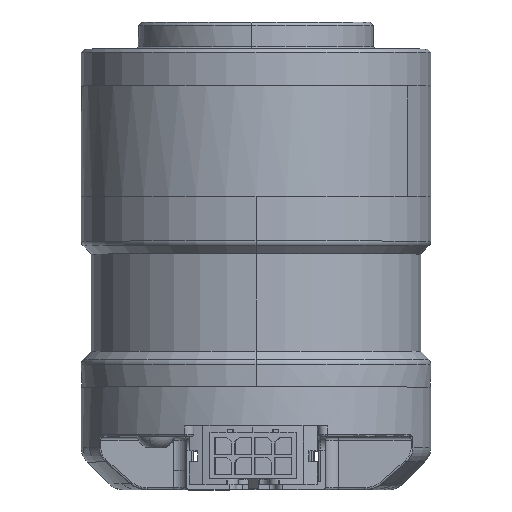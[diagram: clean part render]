
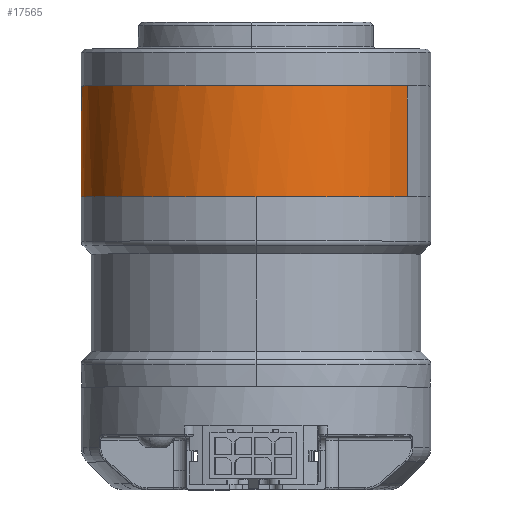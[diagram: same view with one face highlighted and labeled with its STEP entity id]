
A CAD part, top view. The second image highlights one B-rep face of the part: STEP entity #17565.
In plain terms, the highlighted cylindrical face has radius 26 mm (diameter 52 mm), a partial arc.
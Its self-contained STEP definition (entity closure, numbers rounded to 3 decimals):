
#804 = EDGE_CURVE ( 'NONE', #82842, #49451, #48290, .T. ) ;
#1028 = CARTESIAN_POINT ( 'NONE',  ( 22.517, 13.5, 13. ) ) ;
#1937 = CARTESIAN_POINT ( 'NONE',  ( -1.707, 13.5, 26. ) ) ;
#2314 = DIRECTION ( 'NONE',  ( 0., -1., 0. ) ) ;
#3898 = DIRECTION ( 'NONE',  ( 0., 1., 0. ) ) ;
#7416 = VERTEX_POINT ( 'NONE', #87258 ) ;
#7504 = VECTOR ( 'NONE', #3898, 1000. ) ;
#8072 = CARTESIAN_POINT ( 'NONE',  ( -21.663, 13.5, 14.478 ) ) ;
#8374 = AXIS2_PLACEMENT_3D ( 'NONE', #50589, #2314, #64329 ) ;
#8958 = CARTESIAN_POINT ( 'NONE',  ( -15.864, 13.5, 20.67 ) ) ;
#9255 = CARTESIAN_POINT ( 'NONE',  ( 3.399, 13.5, 25.833 ) ) ;
#11779 = EDGE_LOOP ( 'NONE', ( #84990, #81309, #20170, #42794 ) ) ;
#13263 = EDGE_CURVE ( 'NONE', #60349, #7416, #63656, .T. ) ;
#15691 = CARTESIAN_POINT ( 'NONE',  ( -6.746, 13.5, 25.167 ) ) ;
#15992 = CARTESIAN_POINT ( 'NONE',  ( -18.422, 13.5, 18.426 ) ) ;
#16300 = CARTESIAN_POINT ( 'NONE',  ( -5.081, 13.5, 25.555 ) ) ;
#17565 = ADVANCED_FACE ( 'NONE', ( #69839 ), #63279, .T. ) ;
#20170 = ORIENTED_EDGE ( 'NONE', *, *, #13263, .T. ) ;
#21181 = VECTOR ( 'NONE', #80992, 1000. ) ;
#22424 = CARTESIAN_POINT ( 'NONE',  ( -26., 13.5, -1.707 ) ) ;
#22727 = CARTESIAN_POINT ( 'NONE',  ( -22.566, 13.5, 13.026 ) ) ;
#28877 = CARTESIAN_POINT ( 'NONE',  ( -25.555, 13.5, 5.086 ) ) ;
#29189 = CARTESIAN_POINT ( 'NONE',  ( -25.167, 13.5, -6.746 ) ) ;
#29538 = DIRECTION ( 'NONE',  ( 0., 1., 0. ) ) ;
#29818 = CARTESIAN_POINT ( 'NONE',  ( -9.969, 13.5, 24.073 ) ) ;
#30100 = CARTESIAN_POINT ( 'NONE',  ( 9.973, 13.5, 24.071 ) ) ;
#31350 = CARTESIAN_POINT ( 'NONE',  ( 22.517, 6.5, 13. ) ) ;
#35900 = CARTESIAN_POINT ( 'NONE',  ( 21.666, 13.5, 14.474 ) ) ;
#42794 = ORIENTED_EDGE ( 'NONE', *, *, #83611, .F. ) ;
#43215 = CARTESIAN_POINT ( 'NONE',  ( -22.517, 13.5, -13. ) ) ;
#43835 = CARTESIAN_POINT ( 'NONE',  ( 14.478, 13.5, 21.663 ) ) ;
#46368 = LINE ( 'NONE', #31350, #21181 ) ;
#48290 = CIRCLE ( 'NONE', #8374, 26. ) ;
#49451 = VERTEX_POINT ( 'NONE', #66178 ) ;
#50526 = CARTESIAN_POINT ( 'NONE',  ( 13.026, 13.5, 22.566 ) ) ;
#50542 = EDGE_CURVE ( 'NONE', #82842, #60349, #46368, .T. ) ;
#50589 = CARTESIAN_POINT ( 'NONE',  ( 0., -3., 0. ) ) ;
#51129 = CARTESIAN_POINT ( 'NONE',  ( 17.178, 13.5, 19.591 ) ) ;
#56960 = CARTESIAN_POINT ( 'NONE',  ( -24.071, 13.5, 9.973 ) ) ;
#57531 = CARTESIAN_POINT ( 'NONE',  ( 5.086, 13.5, 25.555 ) ) ;
#58139 = CARTESIAN_POINT ( 'NONE',  ( 0.002, 13.5, 26.056 ) ) ;
#60349 = VERTEX_POINT ( 'NONE', #70660 ) ;
#63233 = LINE ( 'NONE', #67769, #7504 ) ;
#63279 = CYLINDRICAL_SURFACE ( 'NONE', #67143, 26. ) ;
#63656 = B_SPLINE_CURVE_WITH_KNOTS ( 'NONE', 3,
 ( #1028, #35900, #65159, #85538, #51129, #43835, #50526, #30100, #84635, #57531, #9255, #58139, #1937, #16300, #15691, #29818, #63959, #84929, #8958, #15992, #64563, #8072, #22727, #56960, #70657, #28877, #64853, #71542, #22424, #70963, #29189, #85245, #77988, #43215 ),
 .UNSPECIFIED., .F., .F.,
 ( 4, 2, 2, 2, 2, 2, 2, 2, 2, 2, 2, 2, 2, 2, 2, 2, 4 ),
 ( 0., 0.062, 0.125, 0.187, 0.25, 0.312, 0.375, 0.437, 0.5, 0.562, 0.625, 0.687, 0.75, 0.812, 0.875, 0.937, 1. ),
 .UNSPECIFIED. ) ;
#63959 = CARTESIAN_POINT ( 'NONE',  ( -11.526, 13.5, 23.368 ) ) ;
#64329 = DIRECTION ( 'NONE',  ( 0.5, 0., -0.866 ) ) ;
#64563 = CARTESIAN_POINT ( 'NONE',  ( -19.591, 13.5, 17.178 ) ) ;
#64853 = CARTESIAN_POINT ( 'NONE',  ( -25.833, 13.5, 3.399 ) ) ;
#65159 = CARTESIAN_POINT ( 'NONE',  ( 20.67, 13.5, 15.864 ) ) ;
#65493 = DIRECTION ( 'NONE',  ( -0.866, 0., -0.5 ) ) ;
#66178 = CARTESIAN_POINT ( 'NONE',  ( -22.517, -3., -13. ) ) ;
#67143 = AXIS2_PLACEMENT_3D ( 'NONE', #71294, #29538, #65493 ) ;
#67769 = CARTESIAN_POINT ( 'NONE',  ( -22.517, 6.5, -13. ) ) ;
#69839 = FACE_OUTER_BOUND ( 'NONE', #11779, .T. ) ;
#70657 = CARTESIAN_POINT ( 'NONE',  ( -24.674, 13.5, 8.373 ) ) ;
#70660 = CARTESIAN_POINT ( 'NONE',  ( 22.517, 13.5, 13. ) ) ;
#70963 = CARTESIAN_POINT ( 'NONE',  ( -25.555, 13.5, -5.081 ) ) ;
#71294 = CARTESIAN_POINT ( 'NONE',  ( 0., 6.5, 0. ) ) ;
#71542 = CARTESIAN_POINT ( 'NONE',  ( -26.056, 13.5, 0.002 ) ) ;
#77988 = CARTESIAN_POINT ( 'NONE',  ( -23.368, 13.5, -11.526 ) ) ;
#80992 = DIRECTION ( 'NONE',  ( 0., 1., 0. ) ) ;
#81309 = ORIENTED_EDGE ( 'NONE', *, *, #50542, .T. ) ;
#82842 = VERTEX_POINT ( 'NONE', #82915 ) ;
#82915 = CARTESIAN_POINT ( 'NONE',  ( 22.517, -3., 13. ) ) ;
#83611 = EDGE_CURVE ( 'NONE', #49451, #7416, #63233, .T. ) ;
#84635 = CARTESIAN_POINT ( 'NONE',  ( 8.373, 13.5, 24.674 ) ) ;
#84929 = CARTESIAN_POINT ( 'NONE',  ( -14.474, 13.5, 21.666 ) ) ;
#84990 = ORIENTED_EDGE ( 'NONE', *, *, #804, .F. ) ;
#85245 = CARTESIAN_POINT ( 'NONE',  ( -24.073, 13.5, -9.969 ) ) ;
#85538 = CARTESIAN_POINT ( 'NONE',  ( 18.426, 13.5, 18.422 ) ) ;
#87258 = CARTESIAN_POINT ( 'NONE',  ( -22.517, 13.5, -13. ) ) ;
